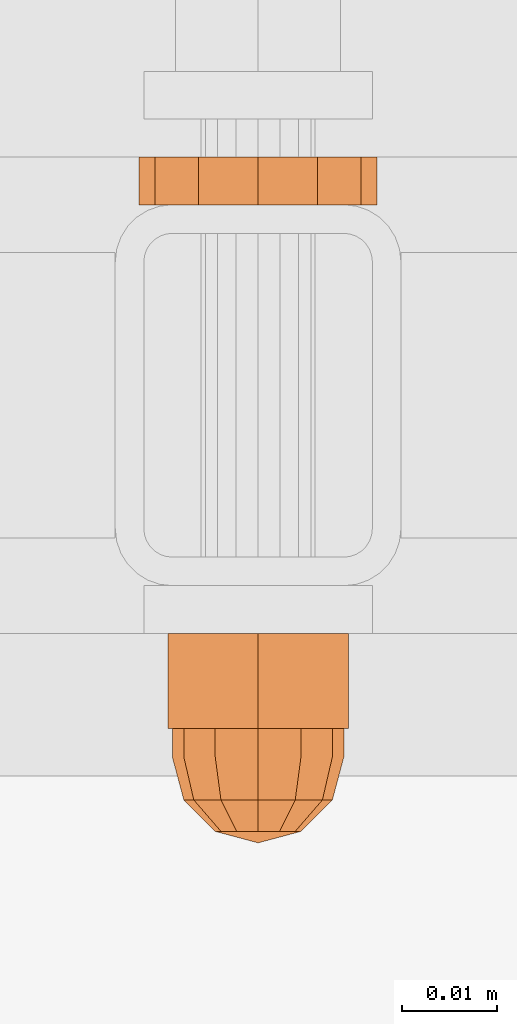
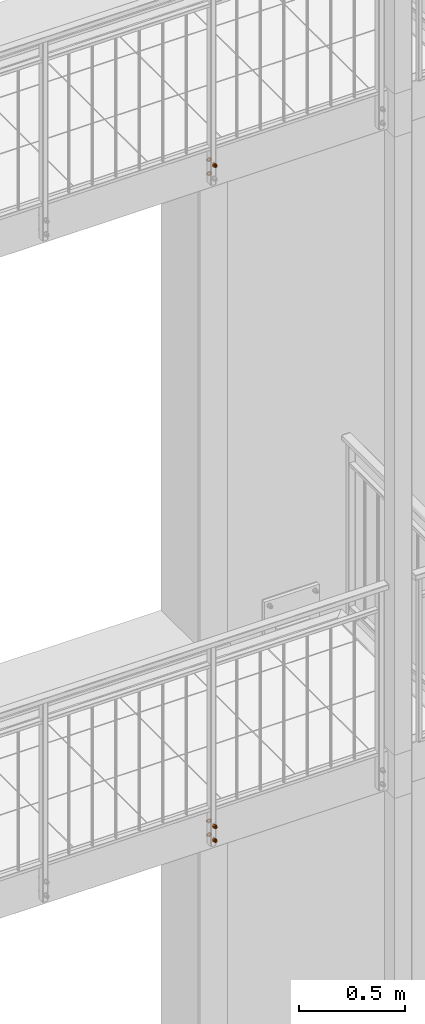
# One storey, part 120 of 162: 7 proxies.
"""IFC2X3 building model written with IfcOpenShell, lengths in millimetres."""

import ifcopenshell
import ifcopenshell.guid

model = None  # the IFC model being written
_history = None  # IfcOwnerHistory: only IFC2X3 demands one
_inside = {}  # id of a spatial element -> (the spatial element, [elements in it])
_under = {}  # id of a project, library or spatial element -> (it, [spatial elements below it])
_declared = {}  # id of a project -> (the project, [libraries it declares])
_typed = {}  # id of a type object -> (the type object, [elements of that type])
_made_of = {}  # id of a material, layer set ... -> (it, [elements and type objects made of it])


def new_model(schema):
    """Start an empty IFC model of exactly this schema.

    Asked for "IFC4X3", IfcOpenShell would pick the latest addendum, in which some entities
    have other attributes; the version numbers below select the first issue.
    IFC2X3 requires an IfcOwnerHistory on every rooted entity: one is made here for all.
    """
    global model, _history
    if schema == "IFC4X3":
        model = ifcopenshell.file(schema_version=(4, 3, 0, 0))
    else:
        model = ifcopenshell.file(schema=schema)
    _inside.clear()
    _under.clear()
    _declared.clear()
    _typed.clear()
    _made_of.clear()
    _history = None
    if model.schema == "IFC2X3":
        org = make("IfcOrganization", Name="unknown")
        user = make(
            "IfcPersonAndOrganization",
            ThePerson=make("IfcPerson", FamilyName="unknown"),
            TheOrganization=org,
        )
        app = make(
            "IfcApplication",
            ApplicationDeveloper=org,
            Version="unknown",
            ApplicationFullName="unknown",
            ApplicationIdentifier="unknown",
        )
        _history = make(
            "IfcOwnerHistory",
            OwningUser=user,
            OwningApplication=app,
            ChangeAction="ADDED",
            CreationDate=0,
        )
    return model


def make(cls, **values):
    """One entity of the class cls with the attributes given. An attribute that is None is left unset."""
    return model.create_entity(
        cls, **{name: value for name, value in values.items() if value is not None}
    )


def entity(cls, *values):
    """Any entity or typed value of the class cls, its attributes in the order of the schema. None: left unset."""
    e = model.create_entity(cls)
    for i, value in enumerate(values):
        if value is not None:
            e[i] = value
    return e


def rooted(cls, **values):
    """An entity with a GlobalId (a new one), such as an element, a storey or a relation."""
    return make(cls, GlobalId=ifcopenshell.guid.new(), OwnerHistory=_history, **values)


def si_unit(unit_type, name, prefix=None):
    """IfcSIUnit, for example si_unit("LENGTHUNIT", "METRE", prefix="MILLI")."""
    return make("IfcSIUnit", UnitType=unit_type, Prefix=prefix, Name=name)


def converted_unit(unit_type, name, factor, base, dimensions=None, offset=None):
    """IfcConversionBasedUnit, such as the inch: factor (a typed value) times the base unit."""
    return make(
        "IfcConversionBasedUnit"
        if offset is None
        else "IfcConversionBasedUnitWithOffset",
        ConversionOffset=offset,
        Dimensions=None
        if dimensions is None
        else entity("IfcDimensionalExponents", *dimensions),
        UnitType=unit_type,
        Name=name,
        ConversionFactor=make(
            "IfcMeasureWithUnit", ValueComponent=factor, UnitComponent=base
        ),
    )


def assignment(units):
    """IfcUnitAssignment: the units of a project."""
    return None if units is None else make("IfcUnitAssignment", Units=units)


def point(xyz):
    """IfcCartesianPoint."""
    return None if xyz is None else make("IfcCartesianPoint", Coordinates=xyz)


def direction(xyz):
    """IfcDirection."""
    return None if xyz is None else make("IfcDirection", DirectionRatios=xyz)


def frame(location, z_axis=None, x_axis=None):
    """IfcAxis2Placement3D, a coordinate frame: its origin and axes. An axis left out is left unset."""
    return make(
        "IfcAxis2Placement3D",
        Location=point(location),
        Axis=direction(z_axis),
        RefDirection=direction(x_axis),
    )


def origin_with_axes():
    """The frame at (0, 0, 0) with the z axis (0, 0, 1) and the x axis (1, 0, 0) written out."""
    return frame((0.0, 0.0, 0.0), z_axis=(0.0, 0.0, 1.0), x_axis=(1.0, 0.0, 0.0))


def place(relative_to, where):
    """IfcLocalPlacement: puts the frame where relative to a parent placement (None: the world)."""
    return make(
        "IfcLocalPlacement", PlacementRelTo=relative_to, RelativePlacement=where
    )


def context(
    kind, dimensions, precision=None, world=None, true_north=None, identifier=None
):
    """IfcGeometricRepresentationContext, for example the 3D "Model" context."""
    return make(
        "IfcGeometricRepresentationContext",
        ContextIdentifier=identifier,
        ContextType=kind,
        CoordinateSpaceDimension=dimensions,
        Precision=precision,
        WorldCoordinateSystem=world,
        TrueNorth=true_north,
    )


def project(units=None, contexts=None):
    """IfcProject with its units and contexts."""
    return rooted(
        "IfcProject",
        Name="project",
        RepresentationContexts=contexts,
        UnitsInContext=assignment(units),
    )


def spatial(cls, under=None, at=None, **own):
    """A site, building, storey or space (cls), placed at a placement, below another one or the project."""
    s = rooted(cls, ObjectPlacement=at, **own)
    if under is not None:
        _under.setdefault(under.id(), (under, []))[1].append(s)
    return s


def faces_of(points, faces, orient=None, outer=None):
    """IfcFace entities. A face is a list of loops; a loop is a list of indices into points, from 0.

    orient and outer hold one flag for each loop. By default every Orientation is true, the
    first loop of a face is its IfcFaceOuterBound and the others are IfcFaceBound.
    """
    made = []
    for i, loops in enumerate(faces):
        bounds = []
        for j, loop in enumerate(loops):
            is_outer = j == 0 if outer is None else outer[i][j]
            bounds.append(
                make(
                    "IfcFaceOuterBound" if is_outer else "IfcFaceBound",
                    Bound=make("IfcPolyLoop", Polygon=[points[k] for k in loop]),
                    Orientation=True if orient is None else orient[i][j],
                )
            )
        made.append(make("IfcFace", Bounds=bounds))
    return made


def faceted_brep(points, faces, orient=None, outer=None, voids=None):
    """IfcFacetedBrep: a solid bounded by flat faces; with voids (closed shells), ...WithVoids."""
    shared = [point(p) for p in points]
    hull = make("IfcClosedShell", CfsFaces=faces_of(shared, faces, orient, outer))
    if voids is None:
        return make("IfcFacetedBrep", Outer=hull)
    return make(
        "IfcFacetedBrepWithVoids",
        Outer=hull,
        Voids=[
            make(cls, CfsFaces=faces_of(shared, fs, o, b)) for cls, fs, o, b in voids
        ],
    )


def shape(context_of_items, identifier, shape_type, items):
    """IfcShapeRepresentation: the items that make up one representation, for example the "Body"."""
    return make(
        "IfcShapeRepresentation",
        ContextOfItems=context_of_items,
        RepresentationIdentifier=identifier,
        RepresentationType=shape_type,
        Items=items,
    )


def material(Name=None, Category=None):
    """IfcMaterial."""
    return make("IfcMaterial", Name=Name, Category=Category)


def made_of(thing, what):
    """Note that an element or type object is made of a material, layer set ...; save() writes the relation."""
    if what is not None:
        _made_of.setdefault(what.id(), (what, []))[1].append(thing)
    return thing


def element(
    cls,
    number,
    at=None,
    inside=None,
    cuts=None,
    type_object=None,
    material=None,
    context=None,
    identifier="Body",
    shape_type=None,
    held_by="IfcProductDefinitionShape",
    body=None,
    shapes=None,
    **own,
):
    """One element of the class cls, such as IfcWall. Its Tag is "e" and its number.

    at: its placement. inside: the storey or other place that contains it. cuts: it is an
    opening in that element (IfcRelVoidsElement). A single representation is given by context,
    identifier, shape_type and body (its items); several are given by shapes. held_by: the class
    of the entity that holds the representations. save() writes the other relations.
    """
    e = rooted(cls, Tag="e%d" % number, ObjectPlacement=at, **own)
    if body is not None:
        shapes = [shape(context, identifier, shape_type, body)]
    if shapes is not None:
        e.Representation = make(held_by, Representations=shapes)
    if inside is not None:
        _inside.setdefault(inside.id(), (inside, []))[1].append(e)
    if cuts is not None:
        rooted(
            "IfcRelVoidsElement", RelatingBuildingElement=cuts, RelatedOpeningElement=e
        )
    if type_object is not None:
        _typed.setdefault(type_object.id(), (type_object, []))[1].append(e)
    return made_of(e, material)


def aggregate(whole, parts):
    """IfcRelAggregates: a whole, such as a stair, and the parts it consists of."""
    return rooted("IfcRelAggregates", RelatingObject=whole, RelatedObjects=parts)


def save(model, path):
    """Write the relations noted so far, then the file.

    IfcRelAggregates (storeys below a building ...), IfcRelContainedInSpatialStructure (elements
    in a storey), IfcRelDefinesByType, IfcRelAssociatesMaterial and IfcRelDeclares: one each for
    every whole, place, type object, material and project.
    """
    for whole, parts in _under.values():
        aggregate(whole, parts)
    for where, things in _inside.values():
        rooted(
            "IfcRelContainedInSpatialStructure",
            RelatedElements=things,
            RelatingStructure=where,
        )
    for kind, things in _typed.values():
        rooted("IfcRelDefinesByType", RelatedObjects=things, RelatingType=kind)
    for what, things in _made_of.values():
        rooted("IfcRelAssociatesMaterial", RelatedObjects=things, RelatingMaterial=what)
    for by, libraries in _declared.values():
        rooted("IfcRelDeclares", RelatingContext=by, RelatedDefinitions=libraries)
    model.write(path)


model = new_model("IFC2X3")

# Units and contexts
model_context = context("Model", 3, precision=1e-09, world=origin_with_axes())
ifc_project = project(units=[si_unit("LENGTHUNIT", "METRE", prefix="MILLI"), si_unit("AREAUNIT", "SQUARE_METRE"), si_unit("VOLUMEUNIT", "CUBIC_METRE"), converted_unit("PLANEANGLEUNIT", "DEGREE", entity("IfcPlaneAngleMeasure", 0.01745329), si_unit("PLANEANGLEUNIT", "RADIAN"), dimensions=[0, 0, 0, 0, 0, 0, 0])], contexts=[model_context])

# Site, building, storey
site_placement = place(None, origin_with_axes())
site = spatial("IfcSite", under=ifc_project, at=site_placement, Name="Hermannstra?e 1a, 60318 Frankfurt", CompositionType="ELEMENT")
building_placement = place(site_placement, origin_with_axes())
building = spatial("IfcBuilding", under=site, at=building_placement, Name="Struktur 1", CompositionType="ELEMENT")
storey_placement = place(building_placement, origin_with_axes())
storey = spatial("IfcBuildingStorey", under=building, at=storey_placement, Name="Default Storey", CompositionType="ELEMENT", Elevation=0.0)

# Proxies
ifc_material = material(Name="Kein")
proxy_1_placement = place(None, origin_with_axes())
element("IfcBuildingElementProxy", 1, at=proxy_1_placement, inside=storey, material=ifc_material, ObjectType="-", context=model_context, shape_type="Brep", body=[
    faceted_brep([(4437.30936482, 1490.609373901, 3815.0), (4437.30936482, 1480.609373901, 3815.0), (4438.113212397, 1480.609373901, 3812.0), (4438.113212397, 1490.609373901, 3812.0), (4440.30936482, 1480.609373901, 3809.803847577), (4440.30936482, 1490.609373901, 3809.803847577), (4438.113212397, 1490.609373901, 3818.0), (4438.113212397, 1480.609373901, 3818.0), (4433.829495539, 1490.609373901, 3820.473205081), (4443.30936482, 1490.609373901, 3825.946410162), (4452.7892341, 1490.609373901, 3820.473205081), (4452.7892341, 1490.609373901, 3809.526794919), (4443.30936482, 1490.609373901, 3804.053589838), (4433.829495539, 1490.609373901, 3809.526794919), (4440.30936482, 1490.609373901, 3820.196152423), (4443.30936482, 1490.609373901, 3809.0), (4446.30936482, 1490.609373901, 3809.803847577), (4448.505517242, 1490.609373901, 3812.0), (4449.30936482, 1490.609373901, 3815.0), (4448.505517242, 1490.609373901, 3818.0), (4446.30936482, 1490.609373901, 3820.196152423), (4443.30936482, 1490.609373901, 3821.0), (4443.30936482, 1480.609373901, 3825.946410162), (4433.829495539, 1480.609373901, 3820.473205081), (4433.829495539, 1480.609373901, 3809.526794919), (4443.30936482, 1480.609373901, 3804.053589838), (4452.7892341, 1480.609373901, 3809.526794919), (4452.7892341, 1480.609373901, 3820.473205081), (4440.30936482, 1480.609373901, 3820.196152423), (4443.30936482, 1480.609373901, 3821.0), (4446.30936482, 1480.609373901, 3820.196152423), (4448.505517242, 1480.609373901, 3818.0), (4449.30936482, 1480.609373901, 3815.0), (4448.505517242, 1480.609373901, 3812.0), (4446.30936482, 1480.609373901, 3809.803847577), (4443.30936482, 1480.609373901, 3809.0)], [[[0, 1, 2, 3]], [[3, 2, 4, 5]], [[1, 0, 6, 7]], [[8, 9, 10, 11, 12, 13], [14, 6, 0, 3, 5, 15, 16, 17, 18, 19, 20, 21]], [[22, 23, 24, 25, 26, 27], [1, 7, 28, 29, 30, 31, 32, 33, 34, 35, 4, 2]], [[7, 6, 14, 28]], [[24, 23, 8, 13]], [[5, 4, 35, 15]], [[13, 12, 25, 24]], [[28, 14, 21, 29]], [[23, 22, 9, 8]], [[15, 35, 34, 16]], [[12, 11, 26, 25]], [[29, 21, 20, 30]], [[22, 27, 10, 9]], [[16, 34, 33, 17]], [[27, 26, 11, 10]], [[30, 20, 19, 31]], [[17, 33, 32, 18]], [[31, 19, 18, 32]]]),
    faceted_brep([(4443.30936482, 1480.609373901, 3824.0), (4443.30936482, 1477.609373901, 3824.0), (4447.80936482, 1477.609373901, 3822.794228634), (4447.80936482, 1480.609373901, 3822.794228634), (4438.80936482, 1480.609373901, 3822.794228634), (4438.80936482, 1477.609373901, 3822.794228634), (4435.515136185, 1477.609373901, 3810.5), (4438.80936482, 1477.609373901, 3807.205771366), (4443.30936482, 1477.609373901, 3806.0), (4447.80936482, 1477.609373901, 3807.205771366), (4451.103593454, 1477.609373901, 3810.5), (4452.30936482, 1477.609373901, 3815.0), (4451.103593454, 1477.609373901, 3819.5), (4435.515136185, 1477.609373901, 3819.5), (4434.30936482, 1477.609373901, 3815.0), (4451.103593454, 1480.609373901, 3810.5), (4447.80936482, 1480.609373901, 3807.205771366), (4443.30936482, 1480.609373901, 3806.0), (4438.80936482, 1480.609373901, 3807.205771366), (4435.515136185, 1480.609373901, 3810.5), (4434.30936482, 1480.609373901, 3815.0), (4435.515136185, 1480.609373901, 3819.5), (4451.103593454, 1480.609373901, 3819.5), (4452.30936482, 1480.609373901, 3815.0)], [[[0, 1, 2, 3]], [[1, 0, 4, 5]], [[6, 7, 8, 9, 10, 11, 12, 2, 1, 5, 13, 14]], [[15, 16, 17, 18, 19, 20, 21, 4, 0, 3, 22, 23]], [[3, 2, 12, 22]], [[5, 4, 21, 13]], [[22, 12, 11, 23]], [[13, 21, 20, 14]], [[7, 18, 17, 8]], [[19, 6, 14, 20]], [[18, 7, 6, 19]], [[23, 11, 10, 15]], [[8, 17, 16, 9]], [[15, 10, 9, 16]]]),
    faceted_brep([(4435.515136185, 1477.609373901, 3819.5), (4436.55936482, 1473.109373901, 3818.897114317), (4439.412250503, 1473.109373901, 3821.75), (4438.80936482, 1477.609373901, 3822.794228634), (4451.103593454, 1477.609373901, 3810.5), (4447.80936482, 1477.609373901, 3807.205771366), (4443.30936482, 1477.609373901, 3806.0), (4438.80936482, 1477.609373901, 3807.205771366), (4435.515136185, 1477.609373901, 3810.5), (4434.30936482, 1477.609373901, 3815.0), (4443.30936482, 1477.609373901, 3824.0), (4447.80936482, 1477.609373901, 3822.794228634), (4451.103593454, 1477.609373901, 3819.5), (4452.30936482, 1477.609373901, 3815.0), (4443.30936482, 1473.109373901, 3822.794228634), (4435.515136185, 1473.109373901, 3815.0), (4438.80936482, 1469.815145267, 3815.0), (4439.412250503, 1469.815145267, 3817.25), (4447.206479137, 1473.109373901, 3821.75), (4441.05936482, 1469.815145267, 3818.897114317), (4436.55936482, 1473.109373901, 3811.102885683), (4439.412250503, 1469.815145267, 3812.75), (4443.30936482, 1469.815145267, 3819.5), (4443.30936482, 1468.609373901, 3815.0), (4439.412250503, 1473.109373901, 3808.25), (4441.05936482, 1469.815145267, 3811.102885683), (4443.30936482, 1473.109373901, 3807.205771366), (4450.05936482, 1473.109373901, 3818.897114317), (4445.55936482, 1469.815145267, 3818.897114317), (4443.30936482, 1469.815145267, 3810.5), (4447.206479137, 1473.109373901, 3808.25), (4445.55936482, 1469.815145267, 3811.102885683), (4451.103593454, 1473.109373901, 3815.0), (4447.206479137, 1469.815145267, 3817.25), (4450.05936482, 1473.109373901, 3811.102885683), (4447.206479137, 1469.815145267, 3812.75), (4447.80936482, 1469.815145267, 3815.0)], [[[0, 1, 2, 3]], [[4, 5, 6, 7, 8, 9, 0, 3, 10, 11, 12, 13]], [[3, 2, 14, 10]], [[15, 16, 17, 1]], [[1, 0, 9, 15]], [[10, 14, 18, 11]], [[1, 17, 19, 2]], [[16, 15, 20, 21]], [[2, 19, 22, 14]], [[23, 17, 16]], [[24, 25, 21, 20]], [[23, 16, 21]], [[24, 7, 6, 26]], [[20, 8, 7, 24]], [[15, 9, 8, 20]], [[11, 18, 27, 12]], [[14, 22, 28, 18]], [[23, 19, 17]], [[26, 29, 25, 24]], [[23, 21, 25]], [[23, 22, 19]], [[26, 6, 5, 30]], [[29, 26, 30, 31]], [[23, 25, 29]], [[12, 27, 32, 13]], [[18, 28, 33, 27]], [[23, 28, 22]], [[23, 29, 31]], [[23, 33, 28]], [[30, 5, 4, 34]], [[31, 30, 34, 35]], [[23, 31, 35]], [[13, 32, 34, 4]], [[27, 33, 36, 32]], [[23, 36, 33]], [[23, 35, 36]], [[35, 34, 32, 36]]]),
])
proxy_2_placement = place(None, origin_with_axes())
element("IfcBuildingElementProxy", 2, at=proxy_2_placement, inside=storey, material=ifc_material, ObjectType="-", context=model_context, shape_type="Brep", body=[
    faceted_brep([(4437.30936482, 1490.609373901, 3895.0), (4437.30936482, 1480.609373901, 3895.0), (4438.113212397, 1480.609373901, 3892.0), (4438.113212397, 1490.609373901, 3892.0), (4440.30936482, 1480.609373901, 3889.803847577), (4440.30936482, 1490.609373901, 3889.803847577), (4438.113212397, 1490.609373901, 3898.0), (4438.113212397, 1480.609373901, 3898.0), (4433.829495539, 1490.609373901, 3900.473205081), (4443.30936482, 1490.609373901, 3905.946410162), (4452.7892341, 1490.609373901, 3900.473205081), (4452.7892341, 1490.609373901, 3889.526794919), (4443.30936482, 1490.609373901, 3884.053589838), (4433.829495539, 1490.609373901, 3889.526794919), (4440.30936482, 1490.609373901, 3900.196152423), (4443.30936482, 1490.609373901, 3889.0), (4446.30936482, 1490.609373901, 3889.803847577), (4448.505517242, 1490.609373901, 3892.0), (4449.30936482, 1490.609373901, 3895.0), (4448.505517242, 1490.609373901, 3898.0), (4446.30936482, 1490.609373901, 3900.196152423), (4443.30936482, 1490.609373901, 3901.0), (4443.30936482, 1480.609373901, 3905.946410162), (4433.829495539, 1480.609373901, 3900.473205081), (4433.829495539, 1480.609373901, 3889.526794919), (4443.30936482, 1480.609373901, 3884.053589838), (4452.7892341, 1480.609373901, 3889.526794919), (4452.7892341, 1480.609373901, 3900.473205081), (4440.30936482, 1480.609373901, 3900.196152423), (4443.30936482, 1480.609373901, 3901.0), (4446.30936482, 1480.609373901, 3900.196152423), (4448.505517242, 1480.609373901, 3898.0), (4449.30936482, 1480.609373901, 3895.0), (4448.505517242, 1480.609373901, 3892.0), (4446.30936482, 1480.609373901, 3889.803847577), (4443.30936482, 1480.609373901, 3889.0)], [[[0, 1, 2, 3]], [[3, 2, 4, 5]], [[1, 0, 6, 7]], [[8, 9, 10, 11, 12, 13], [14, 6, 0, 3, 5, 15, 16, 17, 18, 19, 20, 21]], [[22, 23, 24, 25, 26, 27], [1, 7, 28, 29, 30, 31, 32, 33, 34, 35, 4, 2]], [[7, 6, 14, 28]], [[24, 23, 8, 13]], [[5, 4, 35, 15]], [[13, 12, 25, 24]], [[28, 14, 21, 29]], [[23, 22, 9, 8]], [[15, 35, 34, 16]], [[12, 11, 26, 25]], [[29, 21, 20, 30]], [[22, 27, 10, 9]], [[16, 34, 33, 17]], [[27, 26, 11, 10]], [[30, 20, 19, 31]], [[17, 33, 32, 18]], [[31, 19, 18, 32]]]),
    faceted_brep([(4443.30936482, 1480.609373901, 3904.0), (4443.30936482, 1477.609373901, 3904.0), (4447.80936482, 1477.609373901, 3902.794228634), (4447.80936482, 1480.609373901, 3902.794228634), (4438.80936482, 1480.609373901, 3902.794228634), (4438.80936482, 1477.609373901, 3902.794228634), (4435.515136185, 1477.609373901, 3890.5), (4438.80936482, 1477.609373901, 3887.205771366), (4443.30936482, 1477.609373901, 3886.0), (4447.80936482, 1477.609373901, 3887.205771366), (4451.103593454, 1477.609373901, 3890.5), (4452.30936482, 1477.609373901, 3895.0), (4451.103593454, 1477.609373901, 3899.5), (4435.515136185, 1477.609373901, 3899.5), (4434.30936482, 1477.609373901, 3895.0), (4451.103593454, 1480.609373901, 3890.5), (4447.80936482, 1480.609373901, 3887.205771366), (4443.30936482, 1480.609373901, 3886.0), (4438.80936482, 1480.609373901, 3887.205771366), (4435.515136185, 1480.609373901, 3890.5), (4434.30936482, 1480.609373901, 3895.0), (4435.515136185, 1480.609373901, 3899.5), (4451.103593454, 1480.609373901, 3899.5), (4452.30936482, 1480.609373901, 3895.0)], [[[0, 1, 2, 3]], [[1, 0, 4, 5]], [[6, 7, 8, 9, 10, 11, 12, 2, 1, 5, 13, 14]], [[15, 16, 17, 18, 19, 20, 21, 4, 0, 3, 22, 23]], [[3, 2, 12, 22]], [[5, 4, 21, 13]], [[22, 12, 11, 23]], [[13, 21, 20, 14]], [[7, 18, 17, 8]], [[19, 6, 14, 20]], [[18, 7, 6, 19]], [[23, 11, 10, 15]], [[8, 17, 16, 9]], [[15, 10, 9, 16]]]),
    faceted_brep([(4435.515136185, 1477.609373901, 3899.5), (4436.55936482, 1473.109373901, 3898.897114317), (4439.412250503, 1473.109373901, 3901.75), (4438.80936482, 1477.609373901, 3902.794228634), (4451.103593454, 1477.609373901, 3890.5), (4447.80936482, 1477.609373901, 3887.205771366), (4443.30936482, 1477.609373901, 3886.0), (4438.80936482, 1477.609373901, 3887.205771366), (4435.515136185, 1477.609373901, 3890.5), (4434.30936482, 1477.609373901, 3895.0), (4443.30936482, 1477.609373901, 3904.0), (4447.80936482, 1477.609373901, 3902.794228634), (4451.103593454, 1477.609373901, 3899.5), (4452.30936482, 1477.609373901, 3895.0), (4443.30936482, 1473.109373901, 3902.794228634), (4435.515136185, 1473.109373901, 3895.0), (4438.80936482, 1469.815145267, 3895.0), (4439.412250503, 1469.815145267, 3897.25), (4447.206479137, 1473.109373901, 3901.75), (4441.05936482, 1469.815145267, 3898.897114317), (4436.55936482, 1473.109373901, 3891.102885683), (4439.412250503, 1469.815145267, 3892.75), (4443.30936482, 1469.815145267, 3899.5), (4443.30936482, 1468.609373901, 3895.0), (4439.412250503, 1473.109373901, 3888.25), (4441.05936482, 1469.815145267, 3891.102885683), (4443.30936482, 1473.109373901, 3887.205771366), (4450.05936482, 1473.109373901, 3898.897114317), (4445.55936482, 1469.815145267, 3898.897114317), (4443.30936482, 1469.815145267, 3890.5), (4447.206479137, 1473.109373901, 3888.25), (4445.55936482, 1469.815145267, 3891.102885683), (4451.103593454, 1473.109373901, 3895.0), (4447.206479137, 1469.815145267, 3897.25), (4450.05936482, 1473.109373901, 3891.102885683), (4447.206479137, 1469.815145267, 3892.75), (4447.80936482, 1469.815145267, 3895.0)], [[[0, 1, 2, 3]], [[4, 5, 6, 7, 8, 9, 0, 3, 10, 11, 12, 13]], [[3, 2, 14, 10]], [[15, 16, 17, 1]], [[1, 0, 9, 15]], [[10, 14, 18, 11]], [[1, 17, 19, 2]], [[16, 15, 20, 21]], [[2, 19, 22, 14]], [[23, 17, 16]], [[24, 25, 21, 20]], [[23, 16, 21]], [[24, 7, 6, 26]], [[20, 8, 7, 24]], [[15, 9, 8, 20]], [[11, 18, 27, 12]], [[14, 22, 28, 18]], [[23, 19, 17]], [[26, 29, 25, 24]], [[23, 21, 25]], [[23, 22, 19]], [[26, 6, 5, 30]], [[29, 26, 30, 31]], [[23, 25, 29]], [[12, 27, 32, 13]], [[18, 28, 33, 27]], [[23, 28, 22]], [[23, 29, 31]], [[23, 33, 28]], [[30, 5, 4, 34]], [[31, 30, 34, 35]], [[23, 31, 35]], [[13, 32, 34, 4]], [[27, 33, 36, 32]], [[23, 36, 33]], [[23, 35, 36]], [[35, 34, 32, 36]]]),
])
proxy_3_placement = place(None, origin_with_axes())
element("IfcBuildingElementProxy", 3, at=proxy_3_placement, inside=storey, material=ifc_material, ObjectType="-", context=model_context, shape_type="Brep", body=[
    faceted_brep([(4432.484047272, 1535.609373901, 3888.75), (4437.05936482, 1535.609373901, 3884.174682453), (4443.30936482, 1535.609373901, 3882.5), (4449.55936482, 1535.609373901, 3884.174682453), (4454.134682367, 1535.609373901, 3888.75), (4455.80936482, 1535.609373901, 3895.0), (4454.134682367, 1535.609373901, 3901.25), (4449.55936482, 1535.609373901, 3905.825317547), (4443.30936482, 1535.609373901, 3907.5), (4437.05936482, 1535.609373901, 3905.825317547), (4432.484047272, 1535.609373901, 3901.25), (4430.80936482, 1535.609373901, 3895.0), (4443.30936482, 1535.609373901, 3889.0), (4440.30936482, 1535.609373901, 3889.803847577), (4438.113212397, 1535.609373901, 3892.0), (4437.30936482, 1535.609373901, 3895.0), (4438.113212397, 1535.609373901, 3898.0), (4440.30936482, 1535.609373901, 3900.196152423), (4443.30936482, 1535.609373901, 3901.0), (4446.30936482, 1535.609373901, 3900.196152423), (4448.505517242, 1535.609373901, 3898.0), (4449.30936482, 1535.609373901, 3895.0), (4448.505517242, 1535.609373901, 3892.0), (4446.30936482, 1535.609373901, 3889.803847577), (4432.484047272, 1540.609373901, 3888.75), (4437.05936482, 1540.609373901, 3884.174682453), (4430.80936482, 1540.609373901, 3895.0), (4432.484047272, 1540.609373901, 3901.25), (4437.05936482, 1540.609373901, 3905.825317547), (4443.30936482, 1540.609373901, 3907.5), (4449.55936482, 1540.609373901, 3905.825317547), (4454.134682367, 1540.609373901, 3901.25), (4455.80936482, 1540.609373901, 3895.0), (4454.134682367, 1540.609373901, 3888.75), (4449.55936482, 1540.609373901, 3884.174682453), (4443.30936482, 1540.609373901, 3882.5), (4438.113212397, 1540.609373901, 3898.0), (4437.30936482, 1540.609373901, 3895.0), (4438.113212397, 1540.609373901, 3892.0), (4440.30936482, 1540.609373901, 3889.803847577), (4443.30936482, 1540.609373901, 3889.0), (4446.30936482, 1540.609373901, 3889.803847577), (4448.505517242, 1540.609373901, 3892.0), (4449.30936482, 1540.609373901, 3895.0), (4448.505517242, 1540.609373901, 3898.0), (4446.30936482, 1540.609373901, 3900.196152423), (4443.30936482, 1540.609373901, 3901.0), (4440.30936482, 1540.609373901, 3900.196152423)], [[[0, 1, 2, 3, 4, 5, 6, 7, 8, 9, 10, 11], [12, 13, 14, 15, 16, 17, 18, 19, 20, 21, 22, 23]], [[0, 24, 25, 1]], [[24, 26, 27, 28, 29, 30, 31, 32, 33, 34, 35, 25], [36, 37, 38, 39, 40, 41, 42, 43, 44, 45, 46, 47]], [[38, 14, 13, 39]], [[24, 0, 11, 26]], [[14, 38, 37, 15]], [[39, 13, 12, 40]], [[1, 25, 35, 2]], [[26, 11, 10, 27]], [[15, 37, 36, 16]], [[40, 12, 23, 41]], [[2, 35, 34, 3]], [[27, 10, 9, 28]], [[16, 36, 47, 17]], [[22, 42, 41, 23]], [[3, 34, 33, 4]], [[42, 22, 21, 43]], [[28, 9, 8, 29]], [[17, 47, 46, 18]], [[20, 44, 43, 21]], [[4, 33, 32, 5]], [[45, 19, 18, 46]], [[44, 20, 19, 45]], [[29, 8, 7, 30]], [[5, 32, 31, 6]], [[30, 7, 6, 31]]]),
])
proxy_4_placement = place(None, origin_with_axes())
element("IfcBuildingElementProxy", 4, at=proxy_4_placement, inside=storey, material=ifc_material, ObjectType="-", context=model_context, shape_type="Brep", body=[
    faceted_brep([(4432.484047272, 1535.609373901, 3808.75), (4437.05936482, 1535.609373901, 3804.174682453), (4443.30936482, 1535.609373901, 3802.5), (4449.55936482, 1535.609373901, 3804.174682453), (4454.134682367, 1535.609373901, 3808.75), (4455.80936482, 1535.609373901, 3815.0), (4454.134682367, 1535.609373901, 3821.25), (4449.55936482, 1535.609373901, 3825.825317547), (4443.30936482, 1535.609373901, 3827.5), (4437.05936482, 1535.609373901, 3825.825317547), (4432.484047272, 1535.609373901, 3821.25), (4430.80936482, 1535.609373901, 3815.0), (4443.30936482, 1535.609373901, 3809.0), (4440.30936482, 1535.609373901, 3809.803847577), (4438.113212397, 1535.609373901, 3812.0), (4437.30936482, 1535.609373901, 3815.0), (4438.113212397, 1535.609373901, 3818.0), (4440.30936482, 1535.609373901, 3820.196152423), (4443.30936482, 1535.609373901, 3821.0), (4446.30936482, 1535.609373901, 3820.196152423), (4448.505517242, 1535.609373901, 3818.0), (4449.30936482, 1535.609373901, 3815.0), (4448.505517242, 1535.609373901, 3812.0), (4446.30936482, 1535.609373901, 3809.803847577), (4432.484047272, 1540.609373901, 3808.75), (4437.05936482, 1540.609373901, 3804.174682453), (4430.80936482, 1540.609373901, 3815.0), (4432.484047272, 1540.609373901, 3821.25), (4437.05936482, 1540.609373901, 3825.825317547), (4443.30936482, 1540.609373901, 3827.5), (4449.55936482, 1540.609373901, 3825.825317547), (4454.134682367, 1540.609373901, 3821.25), (4455.80936482, 1540.609373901, 3815.0), (4454.134682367, 1540.609373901, 3808.75), (4449.55936482, 1540.609373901, 3804.174682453), (4443.30936482, 1540.609373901, 3802.5), (4438.113212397, 1540.609373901, 3818.0), (4437.30936482, 1540.609373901, 3815.0), (4438.113212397, 1540.609373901, 3812.0), (4440.30936482, 1540.609373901, 3809.803847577), (4443.30936482, 1540.609373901, 3809.0), (4446.30936482, 1540.609373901, 3809.803847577), (4448.505517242, 1540.609373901, 3812.0), (4449.30936482, 1540.609373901, 3815.0), (4448.505517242, 1540.609373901, 3818.0), (4446.30936482, 1540.609373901, 3820.196152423), (4443.30936482, 1540.609373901, 3821.0), (4440.30936482, 1540.609373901, 3820.196152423)], [[[0, 1, 2, 3, 4, 5, 6, 7, 8, 9, 10, 11], [12, 13, 14, 15, 16, 17, 18, 19, 20, 21, 22, 23]], [[0, 24, 25, 1]], [[24, 26, 27, 28, 29, 30, 31, 32, 33, 34, 35, 25], [36, 37, 38, 39, 40, 41, 42, 43, 44, 45, 46, 47]], [[38, 14, 13, 39]], [[24, 0, 11, 26]], [[14, 38, 37, 15]], [[39, 13, 12, 40]], [[1, 25, 35, 2]], [[26, 11, 10, 27]], [[15, 37, 36, 16]], [[40, 12, 23, 41]], [[2, 35, 34, 3]], [[27, 10, 9, 28]], [[16, 36, 47, 17]], [[22, 42, 41, 23]], [[3, 34, 33, 4]], [[42, 22, 21, 43]], [[28, 9, 8, 29]], [[17, 47, 46, 18]], [[20, 44, 43, 21]], [[4, 33, 32, 5]], [[45, 19, 18, 46]], [[44, 20, 19, 45]], [[29, 8, 7, 30]], [[5, 32, 31, 6]], [[30, 7, 6, 31]]]),
])
proxy_5_placement = place(None, origin_with_axes())
element("IfcBuildingElementProxy", 5, at=proxy_5_placement, inside=storey, material=ifc_material, ObjectType="-", context=model_context, shape_type="Brep", body=[
    faceted_brep([(4432.484047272, 1535.609373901, 7633.75), (4437.05936482, 1535.609373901, 7629.174682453), (4443.30936482, 1535.609373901, 7627.5), (4449.55936482, 1535.609373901, 7629.174682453), (4454.134682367, 1535.609373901, 7633.75), (4455.80936482, 1535.609373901, 7640.0), (4454.134682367, 1535.609373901, 7646.25), (4449.55936482, 1535.609373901, 7650.825317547), (4443.30936482, 1535.609373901, 7652.5), (4437.05936482, 1535.609373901, 7650.825317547), (4432.484047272, 1535.609373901, 7646.25), (4430.80936482, 1535.609373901, 7640.0), (4443.30936482, 1535.609373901, 7634.0), (4440.30936482, 1535.609373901, 7634.803847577), (4438.113212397, 1535.609373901, 7637.0), (4437.30936482, 1535.609373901, 7640.0), (4438.113212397, 1535.609373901, 7643.0), (4440.30936482, 1535.609373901, 7645.196152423), (4443.30936482, 1535.609373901, 7646.0), (4446.30936482, 1535.609373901, 7645.196152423), (4448.505517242, 1535.609373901, 7643.0), (4449.30936482, 1535.609373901, 7640.0), (4448.505517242, 1535.609373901, 7637.0), (4446.30936482, 1535.609373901, 7634.803847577), (4432.484047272, 1540.609373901, 7633.75), (4437.05936482, 1540.609373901, 7629.174682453), (4430.80936482, 1540.609373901, 7640.0), (4432.484047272, 1540.609373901, 7646.25), (4437.05936482, 1540.609373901, 7650.825317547), (4443.30936482, 1540.609373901, 7652.5), (4449.55936482, 1540.609373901, 7650.825317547), (4454.134682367, 1540.609373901, 7646.25), (4455.80936482, 1540.609373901, 7640.0), (4454.134682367, 1540.609373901, 7633.75), (4449.55936482, 1540.609373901, 7629.174682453), (4443.30936482, 1540.609373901, 7627.5), (4438.113212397, 1540.609373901, 7643.0), (4437.30936482, 1540.609373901, 7640.0), (4438.113212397, 1540.609373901, 7637.0), (4440.30936482, 1540.609373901, 7634.803847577), (4443.30936482, 1540.609373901, 7634.0), (4446.30936482, 1540.609373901, 7634.803847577), (4448.505517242, 1540.609373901, 7637.0), (4449.30936482, 1540.609373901, 7640.0), (4448.505517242, 1540.609373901, 7643.0), (4446.30936482, 1540.609373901, 7645.196152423), (4443.30936482, 1540.609373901, 7646.0), (4440.30936482, 1540.609373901, 7645.196152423)], [[[0, 1, 2, 3, 4, 5, 6, 7, 8, 9, 10, 11], [12, 13, 14, 15, 16, 17, 18, 19, 20, 21, 22, 23]], [[0, 24, 25, 1]], [[24, 26, 27, 28, 29, 30, 31, 32, 33, 34, 35, 25], [36, 37, 38, 39, 40, 41, 42, 43, 44, 45, 46, 47]], [[38, 14, 13, 39]], [[24, 0, 11, 26]], [[14, 38, 37, 15]], [[39, 13, 12, 40]], [[1, 25, 35, 2]], [[26, 11, 10, 27]], [[15, 37, 36, 16]], [[40, 12, 23, 41]], [[2, 35, 34, 3]], [[27, 10, 9, 28]], [[16, 36, 47, 17]], [[22, 42, 41, 23]], [[3, 34, 33, 4]], [[42, 22, 21, 43]], [[28, 9, 8, 29]], [[17, 47, 46, 18]], [[20, 44, 43, 21]], [[4, 33, 32, 5]], [[45, 19, 18, 46]], [[44, 20, 19, 45]], [[29, 8, 7, 30]], [[5, 32, 31, 6]], [[30, 7, 6, 31]]]),
])
proxy_6_placement = place(None, origin_with_axes())
element("IfcBuildingElementProxy", 6, at=proxy_6_placement, inside=storey, material=ifc_material, ObjectType="-", context=model_context, shape_type="Brep", body=[
    faceted_brep([(4432.484047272, 1535.609373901, 7713.75), (4437.05936482, 1535.609373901, 7709.174682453), (4443.30936482, 1535.609373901, 7707.5), (4449.55936482, 1535.609373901, 7709.174682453), (4454.134682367, 1535.609373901, 7713.75), (4455.80936482, 1535.609373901, 7720.0), (4454.134682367, 1535.609373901, 7726.25), (4449.55936482, 1535.609373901, 7730.825317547), (4443.30936482, 1535.609373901, 7732.5), (4437.05936482, 1535.609373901, 7730.825317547), (4432.484047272, 1535.609373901, 7726.25), (4430.80936482, 1535.609373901, 7720.0), (4443.30936482, 1535.609373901, 7714.0), (4440.30936482, 1535.609373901, 7714.803847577), (4438.113212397, 1535.609373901, 7717.0), (4437.30936482, 1535.609373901, 7720.0), (4438.113212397, 1535.609373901, 7723.0), (4440.30936482, 1535.609373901, 7725.196152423), (4443.30936482, 1535.609373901, 7726.0), (4446.30936482, 1535.609373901, 7725.196152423), (4448.505517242, 1535.609373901, 7723.0), (4449.30936482, 1535.609373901, 7720.0), (4448.505517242, 1535.609373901, 7717.0), (4446.30936482, 1535.609373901, 7714.803847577), (4432.484047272, 1540.609373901, 7713.75), (4437.05936482, 1540.609373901, 7709.174682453), (4430.80936482, 1540.609373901, 7720.0), (4432.484047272, 1540.609373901, 7726.25), (4437.05936482, 1540.609373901, 7730.825317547), (4443.30936482, 1540.609373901, 7732.5), (4449.55936482, 1540.609373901, 7730.825317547), (4454.134682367, 1540.609373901, 7726.25), (4455.80936482, 1540.609373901, 7720.0), (4454.134682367, 1540.609373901, 7713.75), (4449.55936482, 1540.609373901, 7709.174682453), (4443.30936482, 1540.609373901, 7707.5), (4438.113212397, 1540.609373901, 7723.0), (4437.30936482, 1540.609373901, 7720.0), (4438.113212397, 1540.609373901, 7717.0), (4440.30936482, 1540.609373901, 7714.803847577), (4443.30936482, 1540.609373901, 7714.0), (4446.30936482, 1540.609373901, 7714.803847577), (4448.505517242, 1540.609373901, 7717.0), (4449.30936482, 1540.609373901, 7720.0), (4448.505517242, 1540.609373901, 7723.0), (4446.30936482, 1540.609373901, 7725.196152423), (4443.30936482, 1540.609373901, 7726.0), (4440.30936482, 1540.609373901, 7725.196152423)], [[[0, 1, 2, 3, 4, 5, 6, 7, 8, 9, 10, 11], [12, 13, 14, 15, 16, 17, 18, 19, 20, 21, 22, 23]], [[0, 24, 25, 1]], [[24, 26, 27, 28, 29, 30, 31, 32, 33, 34, 35, 25], [36, 37, 38, 39, 40, 41, 42, 43, 44, 45, 46, 47]], [[38, 14, 13, 39]], [[24, 0, 11, 26]], [[14, 38, 37, 15]], [[39, 13, 12, 40]], [[1, 25, 35, 2]], [[26, 11, 10, 27]], [[15, 37, 36, 16]], [[40, 12, 23, 41]], [[2, 35, 34, 3]], [[27, 10, 9, 28]], [[16, 36, 47, 17]], [[22, 42, 41, 23]], [[3, 34, 33, 4]], [[42, 22, 21, 43]], [[28, 9, 8, 29]], [[17, 47, 46, 18]], [[20, 44, 43, 21]], [[4, 33, 32, 5]], [[45, 19, 18, 46]], [[44, 20, 19, 45]], [[29, 8, 7, 30]], [[5, 32, 31, 6]], [[30, 7, 6, 31]]]),
])
proxy_7_placement = place(None, origin_with_axes())
element("IfcBuildingElementProxy", 7, at=proxy_7_placement, inside=storey, material=ifc_material, ObjectType="-", context=model_context, shape_type="Brep", body=[
    faceted_brep([(4437.30936482, 1490.609373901, 7720.0), (4437.30936482, 1480.609373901, 7720.0), (4438.113212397, 1480.609373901, 7717.0), (4438.113212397, 1490.609373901, 7717.0), (4440.30936482, 1480.609373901, 7714.803847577), (4440.30936482, 1490.609373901, 7714.803847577), (4438.113212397, 1490.609373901, 7723.0), (4438.113212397, 1480.609373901, 7723.0), (4433.829495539, 1490.609373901, 7725.473205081), (4443.30936482, 1490.609373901, 7730.946410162), (4452.7892341, 1490.609373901, 7725.473205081), (4452.7892341, 1490.609373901, 7714.526794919), (4443.30936482, 1490.609373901, 7709.053589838), (4433.829495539, 1490.609373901, 7714.526794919), (4440.30936482, 1490.609373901, 7725.196152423), (4443.30936482, 1490.609373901, 7714.0), (4446.30936482, 1490.609373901, 7714.803847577), (4448.505517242, 1490.609373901, 7717.0), (4449.30936482, 1490.609373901, 7720.0), (4448.505517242, 1490.609373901, 7723.0), (4446.30936482, 1490.609373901, 7725.196152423), (4443.30936482, 1490.609373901, 7726.0), (4443.30936482, 1480.609373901, 7730.946410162), (4433.829495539, 1480.609373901, 7725.473205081), (4433.829495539, 1480.609373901, 7714.526794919), (4443.30936482, 1480.609373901, 7709.053589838), (4452.7892341, 1480.609373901, 7714.526794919), (4452.7892341, 1480.609373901, 7725.473205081), (4440.30936482, 1480.609373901, 7725.196152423), (4443.30936482, 1480.609373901, 7726.0), (4446.30936482, 1480.609373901, 7725.196152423), (4448.505517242, 1480.609373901, 7723.0), (4449.30936482, 1480.609373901, 7720.0), (4448.505517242, 1480.609373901, 7717.0), (4446.30936482, 1480.609373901, 7714.803847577), (4443.30936482, 1480.609373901, 7714.0)], [[[0, 1, 2, 3]], [[3, 2, 4, 5]], [[1, 0, 6, 7]], [[8, 9, 10, 11, 12, 13], [14, 6, 0, 3, 5, 15, 16, 17, 18, 19, 20, 21]], [[22, 23, 24, 25, 26, 27], [1, 7, 28, 29, 30, 31, 32, 33, 34, 35, 4, 2]], [[7, 6, 14, 28]], [[24, 23, 8, 13]], [[5, 4, 35, 15]], [[13, 12, 25, 24]], [[28, 14, 21, 29]], [[23, 22, 9, 8]], [[15, 35, 34, 16]], [[12, 11, 26, 25]], [[29, 21, 20, 30]], [[22, 27, 10, 9]], [[16, 34, 33, 17]], [[27, 26, 11, 10]], [[30, 20, 19, 31]], [[17, 33, 32, 18]], [[31, 19, 18, 32]]]),
    faceted_brep([(4443.30936482, 1480.609373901, 7729.0), (4443.30936482, 1477.609373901, 7729.0), (4447.80936482, 1477.609373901, 7727.794228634), (4447.80936482, 1480.609373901, 7727.794228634), (4438.80936482, 1480.609373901, 7727.794228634), (4438.80936482, 1477.609373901, 7727.794228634), (4435.515136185, 1477.609373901, 7715.5), (4438.80936482, 1477.609373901, 7712.205771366), (4443.30936482, 1477.609373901, 7711.0), (4447.80936482, 1477.609373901, 7712.205771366), (4451.103593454, 1477.609373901, 7715.5), (4452.30936482, 1477.609373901, 7720.0), (4451.103593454, 1477.609373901, 7724.5), (4435.515136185, 1477.609373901, 7724.5), (4434.30936482, 1477.609373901, 7720.0), (4451.103593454, 1480.609373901, 7715.5), (4447.80936482, 1480.609373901, 7712.205771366), (4443.30936482, 1480.609373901, 7711.0), (4438.80936482, 1480.609373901, 7712.205771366), (4435.515136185, 1480.609373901, 7715.5), (4434.30936482, 1480.609373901, 7720.0), (4435.515136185, 1480.609373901, 7724.5), (4451.103593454, 1480.609373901, 7724.5), (4452.30936482, 1480.609373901, 7720.0)], [[[0, 1, 2, 3]], [[1, 0, 4, 5]], [[6, 7, 8, 9, 10, 11, 12, 2, 1, 5, 13, 14]], [[15, 16, 17, 18, 19, 20, 21, 4, 0, 3, 22, 23]], [[3, 2, 12, 22]], [[5, 4, 21, 13]], [[22, 12, 11, 23]], [[13, 21, 20, 14]], [[7, 18, 17, 8]], [[19, 6, 14, 20]], [[18, 7, 6, 19]], [[23, 11, 10, 15]], [[8, 17, 16, 9]], [[15, 10, 9, 16]]]),
    faceted_brep([(4435.515136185, 1477.609373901, 7724.5), (4436.55936482, 1473.109373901, 7723.897114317), (4439.412250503, 1473.109373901, 7726.75), (4438.80936482, 1477.609373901, 7727.794228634), (4451.103593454, 1477.609373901, 7715.5), (4447.80936482, 1477.609373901, 7712.205771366), (4443.30936482, 1477.609373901, 7711.0), (4438.80936482, 1477.609373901, 7712.205771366), (4435.515136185, 1477.609373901, 7715.5), (4434.30936482, 1477.609373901, 7720.0), (4443.30936482, 1477.609373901, 7729.0), (4447.80936482, 1477.609373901, 7727.794228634), (4451.103593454, 1477.609373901, 7724.5), (4452.30936482, 1477.609373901, 7720.0), (4443.30936482, 1473.109373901, 7727.794228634), (4435.515136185, 1473.109373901, 7720.0), (4438.80936482, 1469.815145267, 7720.0), (4439.412250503, 1469.815145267, 7722.25), (4447.206479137, 1473.109373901, 7726.75), (4441.05936482, 1469.815145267, 7723.897114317), (4436.55936482, 1473.109373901, 7716.102885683), (4439.412250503, 1469.815145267, 7717.75), (4443.30936482, 1469.815145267, 7724.5), (4443.30936482, 1468.609373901, 7720.0), (4439.412250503, 1473.109373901, 7713.25), (4441.05936482, 1469.815145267, 7716.102885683), (4443.30936482, 1473.109373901, 7712.205771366), (4450.05936482, 1473.109373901, 7723.897114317), (4445.55936482, 1469.815145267, 7723.897114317), (4443.30936482, 1469.815145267, 7715.5), (4447.206479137, 1473.109373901, 7713.25), (4445.55936482, 1469.815145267, 7716.102885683), (4451.103593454, 1473.109373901, 7720.0), (4447.206479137, 1469.815145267, 7722.25), (4450.05936482, 1473.109373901, 7716.102885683), (4447.206479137, 1469.815145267, 7717.75), (4447.80936482, 1469.815145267, 7720.0)], [[[0, 1, 2, 3]], [[4, 5, 6, 7, 8, 9, 0, 3, 10, 11, 12, 13]], [[3, 2, 14, 10]], [[15, 16, 17, 1]], [[1, 0, 9, 15]], [[10, 14, 18, 11]], [[1, 17, 19, 2]], [[16, 15, 20, 21]], [[2, 19, 22, 14]], [[23, 17, 16]], [[24, 25, 21, 20]], [[23, 16, 21]], [[24, 7, 6, 26]], [[20, 8, 7, 24]], [[15, 9, 8, 20]], [[11, 18, 27, 12]], [[14, 22, 28, 18]], [[23, 19, 17]], [[26, 29, 25, 24]], [[23, 21, 25]], [[23, 22, 19]], [[26, 6, 5, 30]], [[29, 26, 30, 31]], [[23, 25, 29]], [[12, 27, 32, 13]], [[18, 28, 33, 27]], [[23, 28, 22]], [[23, 29, 31]], [[23, 33, 28]], [[30, 5, 4, 34]], [[31, 30, 34, 35]], [[23, 31, 35]], [[13, 32, 34, 4]], [[27, 33, 36, 32]], [[23, 36, 33]], [[23, 35, 36]], [[35, 34, 32, 36]]]),
])

save(model, "model.ifc")
